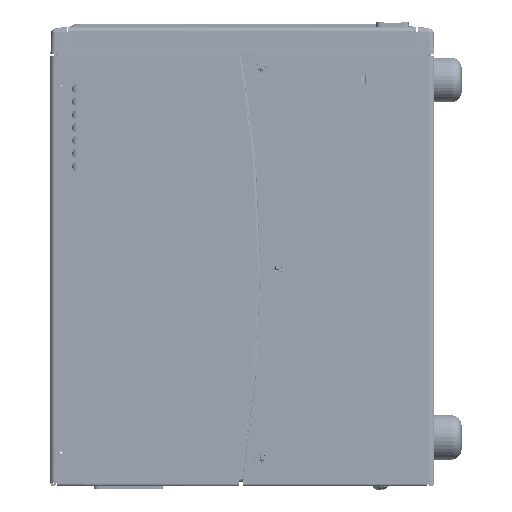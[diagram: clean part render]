
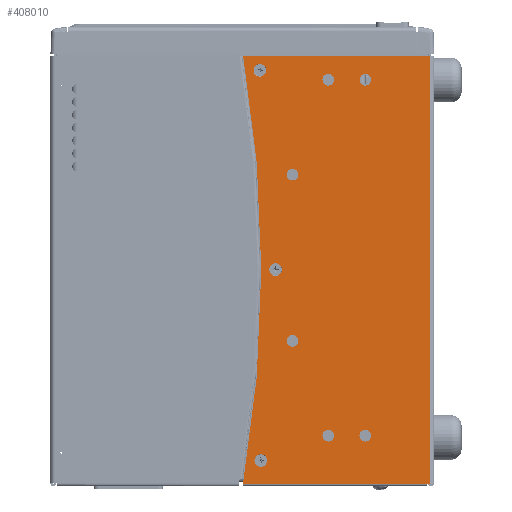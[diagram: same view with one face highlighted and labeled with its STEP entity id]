
A CAD part, left-side view. The second image highlights one B-rep face of the part: STEP entity #408010.
In plain terms, the highlighted planar face has unit normal (-1, 0, 0).
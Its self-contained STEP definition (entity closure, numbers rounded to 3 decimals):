
#405868=DIRECTION('',(0.,0.,-1.));
#405869=VECTOR('',#405868,7.772);
#405870=CARTESIAN_POINT('',(-3.694,-5.778,0.087));
#405871=LINE('',#405870,#405869);
#405886=CARTESIAN_POINT('',(-3.694,-3.937,-0.353));
#405887=DIRECTION('',(-1.,0.,0.));
#405888=DIRECTION('',(0.,0.,1.));
#405889=AXIS2_PLACEMENT_3D('',#405886,#405887,#405888);
#405891=CARTESIAN_POINT('',(-3.694,-3.937,-0.353));
#405892=DIRECTION('',(-1.,0.,0.));
#405893=DIRECTION('',(0.,0.,-1.));
#405894=AXIS2_PLACEMENT_3D('',#405891,#405892,#405893);
#405896=CARTESIAN_POINT('',(-3.694,-3.287,-2.075));
#405897=DIRECTION('',(-1.,0.,0.));
#405898=DIRECTION('',(0.,0.,1.));
#405899=AXIS2_PLACEMENT_3D('',#405896,#405897,#405898);
#405901=CARTESIAN_POINT('',(-3.694,-3.287,-2.075));
#405902=DIRECTION('',(-1.,0.,0.));
#405903=DIRECTION('',(0.,0.,-1.));
#405904=AXIS2_PLACEMENT_3D('',#405901,#405902,#405903);
#405906=CARTESIAN_POINT('',(-3.694,-3.937,-6.817));
#405907=DIRECTION('',(-1.,0.,0.));
#405908=DIRECTION('',(0.,0.,1.));
#405909=AXIS2_PLACEMENT_3D('',#405906,#405907,#405908);
#405911=CARTESIAN_POINT('',(-3.694,-3.937,-6.817));
#405912=DIRECTION('',(-1.,0.,0.));
#405913=DIRECTION('',(0.,0.,-1.));
#405914=AXIS2_PLACEMENT_3D('',#405911,#405912,#405913);
#405916=CARTESIAN_POINT('',(-3.694,-3.287,-5.095));
#405917=DIRECTION('',(-1.,0.,0.));
#405918=DIRECTION('',(0.,0.,1.));
#405919=AXIS2_PLACEMENT_3D('',#405916,#405917,#405918);
#405921=CARTESIAN_POINT('',(-3.694,-3.287,-5.095));
#405922=DIRECTION('',(-1.,0.,0.));
#405923=DIRECTION('',(0.,0.,-1.));
#405924=AXIS2_PLACEMENT_3D('',#405921,#405922,#405923);
#405926=CARTESIAN_POINT('',(-3.694,-2.693,-0.18));
#405927=DIRECTION('',(1.,0.,0.));
#405928=DIRECTION('',(0.,0.,-1.));
#405929=AXIS2_PLACEMENT_3D('',#405926,#405927,#405928);
#405931=CARTESIAN_POINT('',(-3.694,-2.693,-0.18));
#405932=DIRECTION('',(1.,0.,0.));
#405933=DIRECTION('',(0.,0.,1.));
#405934=AXIS2_PLACEMENT_3D('',#405931,#405932,#405933);
#405936=CARTESIAN_POINT('',(-3.694,-2.978,-3.799));
#405937=DIRECTION('',(1.,0.,0.));
#405938=DIRECTION('',(0.,0.,-1.));
#405939=AXIS2_PLACEMENT_3D('',#405936,#405937,#405938);
#405941=CARTESIAN_POINT('',(-3.694,-2.978,-3.799));
#405942=DIRECTION('',(1.,0.,0.));
#405943=DIRECTION('',(0.,0.,1.));
#405944=AXIS2_PLACEMENT_3D('',#405941,#405942,#405943);
#405946=CARTESIAN_POINT('',(-3.694,-2.711,-7.269));
#405947=DIRECTION('',(1.,0.,0.));
#405948=DIRECTION('',(0.,0.,-1.));
#405949=AXIS2_PLACEMENT_3D('',#405946,#405947,#405948);
#405951=CARTESIAN_POINT('',(-3.694,-2.711,-7.269));
#405952=DIRECTION('',(1.,0.,0.));
#405953=DIRECTION('',(0.,0.,1.));
#405954=AXIS2_PLACEMENT_3D('',#405951,#405952,#405953);
#405956=CARTESIAN_POINT('',(-3.694,-4.609,-0.353));
#405957=DIRECTION('',(1.,0.,0.));
#405958=DIRECTION('',(0.,0.,1.));
#405959=AXIS2_PLACEMENT_3D('',#405956,#405957,#405958);
#405961=CARTESIAN_POINT('',(-3.694,-4.609,-0.353));
#405962=DIRECTION('',(1.,0.,0.));
#405963=DIRECTION('',(0.,0.,-1.));
#405964=AXIS2_PLACEMENT_3D('',#405961,#405962,#405963);
#405966=CARTESIAN_POINT('',(-3.694,-4.609,-6.817));
#405967=DIRECTION('',(1.,0.,0.));
#405968=DIRECTION('',(0.,0.,1.));
#405969=AXIS2_PLACEMENT_3D('',#405966,#405967,#405968);
#405971=CARTESIAN_POINT('',(-3.694,-4.609,-6.817));
#405972=DIRECTION('',(1.,0.,0.));
#405973=DIRECTION('',(0.,0.,-1.));
#405974=AXIS2_PLACEMENT_3D('',#405971,#405972,#405973);
#405976=CARTESIAN_POINT('',(-3.694,-2.411,0.067));
#405977=DIRECTION('',(1.,0.,0.));
#405978=DIRECTION('',(0.,0.986,-0.169));
#405979=AXIS2_PLACEMENT_3D('',#405976,#405977,#405978);
#405981=DIRECTION('',(0.,-1.,0.));
#405982=VECTOR('',#405981,3.366);
#405983=CARTESIAN_POINT('',(-3.694,-2.411,0.087));
#405984=LINE('',#405983,#405982);
#405985=DIRECTION('',(0.,1.,0.));
#405986=VECTOR('',#405985,0.041);
#405987=CARTESIAN_POINT('',(-3.694,-5.778,-7.685));
#405988=LINE('',#405987,#405986);
#405989=CARTESIAN_POINT('',(-3.694,20.17,-3.799));
#405990=DIRECTION('',(1.,0.,0.));
#405991=DIRECTION('',(0.,-0.986,0.169));
#405992=AXIS2_PLACEMENT_3D('',#405989,#405990,#405991);
#406172=DIRECTION('',(0.,-1.,0.));
#406173=VECTOR('',#406172,3.349);
#406174=CARTESIAN_POINT('',(-3.694,-2.388,-7.685));
#406175=LINE('',#406174,#406173);
#406542=CARTESIAN_POINT('',(-3.694,-3.937,-0.247));
#406543=CARTESIAN_POINT('',(-3.694,-3.937,-0.459));
#406544=VERTEX_POINT('',#406542);
#406545=VERTEX_POINT('',#406543);
#406546=CARTESIAN_POINT('',(-3.694,-3.287,-1.969));
#406547=CARTESIAN_POINT('',(-3.694,-3.287,-2.181));
#406548=VERTEX_POINT('',#406546);
#406549=VERTEX_POINT('',#406547);
#406550=CARTESIAN_POINT('',(-3.694,-3.937,-6.711));
#406551=CARTESIAN_POINT('',(-3.694,-3.937,-6.923));
#406552=VERTEX_POINT('',#406550);
#406553=VERTEX_POINT('',#406551);
#406554=CARTESIAN_POINT('',(-3.694,-3.287,-4.989));
#406555=CARTESIAN_POINT('',(-3.694,-3.287,-5.201));
#406556=VERTEX_POINT('',#406554);
#406557=VERTEX_POINT('',#406555);
#406658=CARTESIAN_POINT('',(-3.694,-2.693,-0.295));
#406659=CARTESIAN_POINT('',(-3.694,-2.693,-0.065));
#406660=VERTEX_POINT('',#406658);
#406661=VERTEX_POINT('',#406659);
#406674=CARTESIAN_POINT('',(-3.694,-2.978,-3.914));
#406675=CARTESIAN_POINT('',(-3.694,-2.978,-3.684));
#406676=VERTEX_POINT('',#406674);
#406677=VERTEX_POINT('',#406675);
#406690=CARTESIAN_POINT('',(-3.694,-2.711,-7.384));
#406691=CARTESIAN_POINT('',(-3.694,-2.711,-7.154));
#406692=VERTEX_POINT('',#406690);
#406693=VERTEX_POINT('',#406691);
#406794=CARTESIAN_POINT('',(-3.694,-5.778,-7.685));
#406795=CARTESIAN_POINT('',(-3.694,-5.737,-7.685));
#406796=VERTEX_POINT('',#406794);
#406797=VERTEX_POINT('',#406795);
#406824=CARTESIAN_POINT('',(-3.694,-5.778,0.087));
#406825=VERTEX_POINT('',#406824);
#406856=CARTESIAN_POINT('',(-3.694,-2.388,-7.685));
#406857=VERTEX_POINT('',#406856);
#406910=CARTESIAN_POINT('',(-3.694,-2.411,0.087));
#406911=CARTESIAN_POINT('',(-3.694,-2.392,0.064));
#406912=VERTEX_POINT('',#406910);
#406913=VERTEX_POINT('',#406911);
#406926=CARTESIAN_POINT('',(-3.694,-4.609,-0.247));
#406927=CARTESIAN_POINT('',(-3.694,-4.609,-0.459));
#406928=VERTEX_POINT('',#406926);
#406929=VERTEX_POINT('',#406927);
#406930=CARTESIAN_POINT('',(-3.694,-4.609,-6.711));
#406931=CARTESIAN_POINT('',(-3.694,-4.609,-6.923));
#406932=VERTEX_POINT('',#406930);
#406933=VERTEX_POINT('',#406931);
#407938=CARTESIAN_POINT('',(-3.694,-5.858,-7.685));
#407939=DIRECTION('',(1.,0.,0.));
#407940=DIRECTION('',(0.,0.,-1.));
#407941=AXIS2_PLACEMENT_3D('',#407938,#407939,#407940);
#407942=PLANE('',#407941);
#407944=ORIENTED_EDGE('',*,*,#407943,.T.);
#407946=ORIENTED_EDGE('',*,*,#407945,.T.);
#407947=ORIENTED_EDGE('',*,*,#407929,.T.);
#407949=ORIENTED_EDGE('',*,*,#407948,.T.);
#407951=ORIENTED_EDGE('',*,*,#407950,.F.);
#407953=ORIENTED_EDGE('',*,*,#407952,.F.);
#407954=EDGE_LOOP('',(#407944,#407946,#407947,#407949,#407951,#407953));
#407955=FACE_OUTER_BOUND('',#407954,.F.);
#407957=ORIENTED_EDGE('',*,*,#407956,.T.);
#407959=ORIENTED_EDGE('',*,*,#407958,.T.);
#407960=EDGE_LOOP('',(#407957,#407959));
#407961=FACE_BOUND('',#407960,.F.);
#407963=ORIENTED_EDGE('',*,*,#407962,.T.);
#407965=ORIENTED_EDGE('',*,*,#407964,.T.);
#407966=EDGE_LOOP('',(#407963,#407965));
#407967=FACE_BOUND('',#407966,.F.);
#407969=ORIENTED_EDGE('',*,*,#407968,.T.);
#407971=ORIENTED_EDGE('',*,*,#407970,.T.);
#407972=EDGE_LOOP('',(#407969,#407971));
#407973=FACE_BOUND('',#407972,.F.);
#407975=ORIENTED_EDGE('',*,*,#407974,.T.);
#407977=ORIENTED_EDGE('',*,*,#407976,.T.);
#407978=EDGE_LOOP('',(#407975,#407977));
#407979=FACE_BOUND('',#407978,.F.);
#407981=ORIENTED_EDGE('',*,*,#407980,.F.);
#407983=ORIENTED_EDGE('',*,*,#407982,.F.);
#407984=EDGE_LOOP('',(#407981,#407983));
#407985=FACE_BOUND('',#407984,.F.);
#407987=ORIENTED_EDGE('',*,*,#407986,.F.);
#407989=ORIENTED_EDGE('',*,*,#407988,.F.);
#407990=EDGE_LOOP('',(#407987,#407989));
#407991=FACE_BOUND('',#407990,.F.);
#407993=ORIENTED_EDGE('',*,*,#407992,.F.);
#407995=ORIENTED_EDGE('',*,*,#407994,.F.);
#407996=EDGE_LOOP('',(#407993,#407995));
#407997=FACE_BOUND('',#407996,.F.);
#407999=ORIENTED_EDGE('',*,*,#407998,.F.);
#408001=ORIENTED_EDGE('',*,*,#408000,.F.);
#408002=EDGE_LOOP('',(#407999,#408001));
#408003=FACE_BOUND('',#408002,.F.);
#408005=ORIENTED_EDGE('',*,*,#408004,.F.);
#408007=ORIENTED_EDGE('',*,*,#408006,.F.);
#408008=EDGE_LOOP('',(#408005,#408007));
#408009=FACE_BOUND('',#408008,.F.);
#408010=ADVANCED_FACE('',(#407955,#407961,#407967,#407973,#407979,#407985,
#407991,#407997,#408003,#408009),#407942,.F.);
#405890=CIRCLE('',#405889,0.106);
#405895=CIRCLE('',#405894,0.106);
#405900=CIRCLE('',#405899,0.106);
#405905=CIRCLE('',#405904,0.106);
#405910=CIRCLE('',#405909,0.106);
#405915=CIRCLE('',#405914,0.106);
#405920=CIRCLE('',#405919,0.106);
#405925=CIRCLE('',#405924,0.106);
#405930=CIRCLE('',#405929,0.115);
#405935=CIRCLE('',#405934,0.115);
#405940=CIRCLE('',#405939,0.115);
#405945=CIRCLE('',#405944,0.115);
#405950=CIRCLE('',#405949,0.115);
#405955=CIRCLE('',#405954,0.115);
#405960=CIRCLE('',#405959,0.106);
#405965=CIRCLE('',#405964,0.106);
#405970=CIRCLE('',#405969,0.106);
#405975=CIRCLE('',#405974,0.106);
#405980=CIRCLE('',#405979,0.02);
#405993=CIRCLE('',#405992,22.89);
#407929=EDGE_CURVE('',#406825,#406796,#405871,.T.);
#407943=EDGE_CURVE('',#406913,#406912,#405980,.T.);
#407945=EDGE_CURVE('',#406912,#406825,#405984,.T.);
#407948=EDGE_CURVE('',#406796,#406797,#405988,.T.);
#407950=EDGE_CURVE('',#406857,#406797,#406175,.T.);
#407952=EDGE_CURVE('',#406913,#406857,#405993,.T.);
#407956=EDGE_CURVE('',#406544,#406545,#405890,.T.);
#407958=EDGE_CURVE('',#406545,#406544,#405895,.T.);
#407962=EDGE_CURVE('',#406548,#406549,#405900,.T.);
#407964=EDGE_CURVE('',#406549,#406548,#405905,.T.);
#407968=EDGE_CURVE('',#406552,#406553,#405910,.T.);
#407970=EDGE_CURVE('',#406553,#406552,#405915,.T.);
#407974=EDGE_CURVE('',#406556,#406557,#405920,.T.);
#407976=EDGE_CURVE('',#406557,#406556,#405925,.T.);
#407980=EDGE_CURVE('',#406660,#406661,#405930,.T.);
#407982=EDGE_CURVE('',#406661,#406660,#405935,.T.);
#407986=EDGE_CURVE('',#406676,#406677,#405940,.T.);
#407988=EDGE_CURVE('',#406677,#406676,#405945,.T.);
#407992=EDGE_CURVE('',#406692,#406693,#405950,.T.);
#407994=EDGE_CURVE('',#406693,#406692,#405955,.T.);
#407998=EDGE_CURVE('',#406928,#406929,#405960,.T.);
#408000=EDGE_CURVE('',#406929,#406928,#405965,.T.);
#408004=EDGE_CURVE('',#406932,#406933,#405970,.T.);
#408006=EDGE_CURVE('',#406933,#406932,#405975,.T.);
